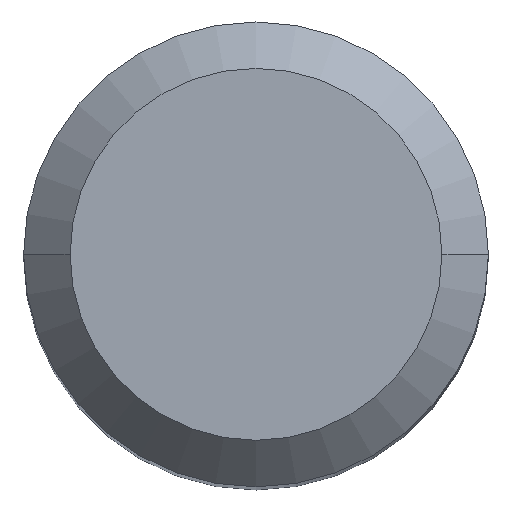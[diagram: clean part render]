
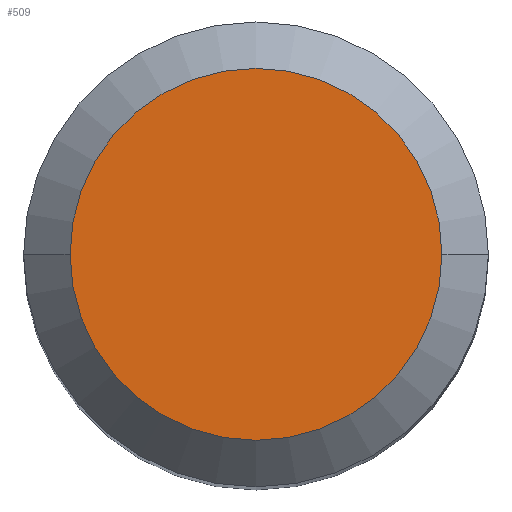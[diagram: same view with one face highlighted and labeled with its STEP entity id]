
A CAD part, top view. The second image highlights one B-rep face of the part: STEP entity #509.
In plain terms, the highlighted planar face has unit normal (0, 0, 1).
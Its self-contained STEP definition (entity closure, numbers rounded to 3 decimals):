
#5 = ORIENTED_EDGE ( 'NONE', *, *, #77, .F. ) ;
#34 = CARTESIAN_POINT ( 'NONE',  ( -4., 0., 0. ) ) ;
#77 = EDGE_CURVE ( 'NONE', #524, #374, #92, .T. ) ;
#92 = CIRCLE ( 'NONE', #341, 4. ) ;
#143 = DIRECTION ( 'NONE',  ( -1., 0., 0. ) ) ;
#150 = FACE_OUTER_BOUND ( 'NONE', #313, .T. ) ;
#213 = CARTESIAN_POINT ( 'NONE',  ( 0., 0., 0. ) ) ;
#237 = CARTESIAN_POINT ( 'NONE',  ( 0., 0., 0. ) ) ;
#240 = EDGE_CURVE ( 'NONE', #374, #524, #483, .T. ) ;
#248 = DIRECTION ( 'NONE',  ( -1., 0., 0. ) ) ;
#253 = DIRECTION ( 'NONE',  ( 0., 0., -1. ) ) ;
#288 = PLANE ( 'NONE',  #383 ) ;
#291 = CARTESIAN_POINT ( 'NONE',  ( 4., 0., 0. ) ) ;
#313 = EDGE_LOOP ( 'NONE', ( #393, #5 ) ) ;
#341 = AXIS2_PLACEMENT_3D ( 'NONE', #213, #253, #248 ) ;
#368 = DIRECTION ( 'NONE',  ( 1., 0., 0. ) ) ;
#374 = VERTEX_POINT ( 'NONE', #34 ) ;
#383 = AXIS2_PLACEMENT_3D ( 'NONE', #454, #461, #368 ) ;
#393 = ORIENTED_EDGE ( 'NONE', *, *, #240, .F. ) ;
#402 = DIRECTION ( 'NONE',  ( 0., 0., -1. ) ) ;
#454 = CARTESIAN_POINT ( 'NONE',  ( 0., 4., 0. ) ) ;
#461 = DIRECTION ( 'NONE',  ( 0., 0., 1. ) ) ;
#473 = AXIS2_PLACEMENT_3D ( 'NONE', #237, #402, #143 ) ;
#483 = CIRCLE ( 'NONE', #473, 4. ) ;
#509 = ADVANCED_FACE ( 'NONE', ( #150 ), #288, .T. ) ;
#524 = VERTEX_POINT ( 'NONE', #291 ) ;
